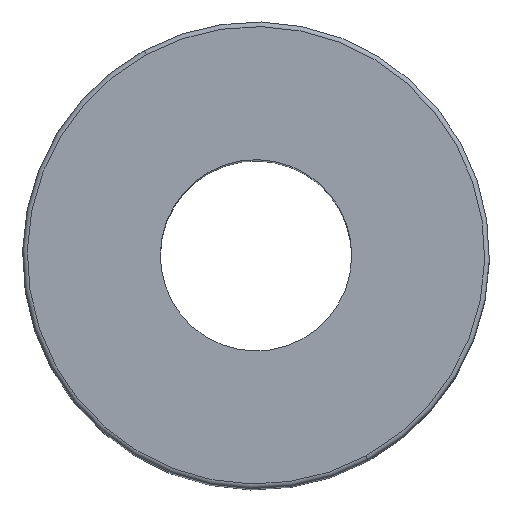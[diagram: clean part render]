
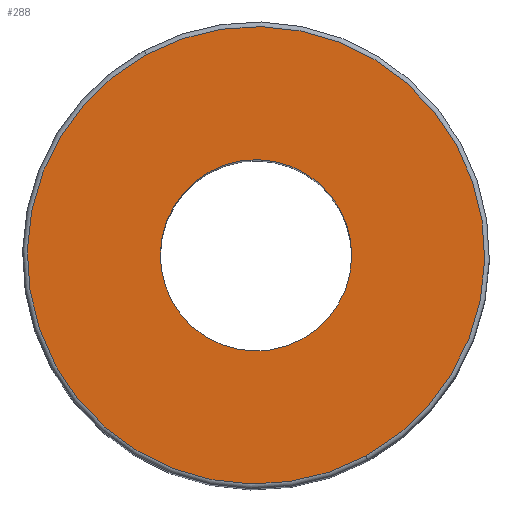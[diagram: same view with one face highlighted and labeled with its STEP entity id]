
A CAD part, top view. The second image highlights one B-rep face of the part: STEP entity #288.
In plain terms, the highlighted planar face has unit normal (0, 0, 1).
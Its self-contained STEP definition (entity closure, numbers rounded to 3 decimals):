
#60=CARTESIAN_POINT('Vertex',(-11.746,21.501,41.25)) ;
#76=CARTESIAN_POINT('Vertex',(11.746,-21.501,41.25)) ;
#79=CARTESIAN_POINT('Axis2P3D Location',(0.,0.,41.25)) ;
#101=CARTESIAN_POINT('Axis2P3D Location',(0.,0.,41.25)) ;
#241=CARTESIAN_POINT('Vertex',(-4.914,8.995,41.25)) ;
#244=CARTESIAN_POINT('Axis2P3D Location',(0.,0.,41.25)) ;
#248=CARTESIAN_POINT('Vertex',(4.914,-8.995,41.25)) ;
#263=CARTESIAN_POINT('Axis2P3D Location',(0.,0.,41.25)) ;
#275=CARTESIAN_POINT('Axis2P3D Location',(0.,-10.25,41.25)) ;
#80=DIRECTION('Axis2P3D Direction',(0.,-0.,1.)) ;
#102=DIRECTION('Axis2P3D Direction',(0.,0.,1.)) ;
#245=DIRECTION('Axis2P3D Direction',(0.,0.,1.)) ;
#264=DIRECTION('Axis2P3D Direction',(0.,0.,1.)) ;
#276=DIRECTION('Axis2P3D Direction',(0.,0.,1.)) ;
#277=DIRECTION('Axis2P3D XDirection',(1.,0.,0.)) ;
#81=AXIS2_PLACEMENT_3D('Circle Axis2P3D',#79,#80,$) ;
#103=AXIS2_PLACEMENT_3D('Circle Axis2P3D',#101,#102,$) ;
#246=AXIS2_PLACEMENT_3D('Circle Axis2P3D',#244,#245,$) ;
#265=AXIS2_PLACEMENT_3D('Circle Axis2P3D',#263,#264,$) ;
#278=AXIS2_PLACEMENT_3D('Plane Axis2P3D',#275,#276,#277) ;
#281=ORIENTED_EDGE('',*,*,#105,.T.) ;
#282=ORIENTED_EDGE('',*,*,#83,.T.) ;
#285=ORIENTED_EDGE('',*,*,#250,.F.) ;
#286=ORIENTED_EDGE('',*,*,#267,.F.) ;
#287=FACE_BOUND('',#284,.T.) ;
#288=ADVANCED_FACE('PartBody',(#283,#287),#279,.T.) ;
#82=CIRCLE('generated circle',#81,24.5) ;
#104=CIRCLE('generated circle',#103,24.5) ;
#247=CIRCLE('generated circle',#246,10.25) ;
#266=CIRCLE('generated circle',#265,10.25) ;
#83=EDGE_CURVE('',#61,#77,#82,.T.) ;
#105=EDGE_CURVE('',#77,#61,#104,.T.) ;
#250=EDGE_CURVE('',#242,#249,#247,.T.) ;
#267=EDGE_CURVE('',#249,#242,#266,.T.) ;
#280=EDGE_LOOP('',(#281,#282)) ;
#284=EDGE_LOOP('',(#285,#286)) ;
#283=FACE_OUTER_BOUND('',#280,.T.) ;
#279=PLANE('',#278) ;
#61=VERTEX_POINT('',#60) ;
#77=VERTEX_POINT('',#76) ;
#242=VERTEX_POINT('',#241) ;
#249=VERTEX_POINT('',#248) ;
